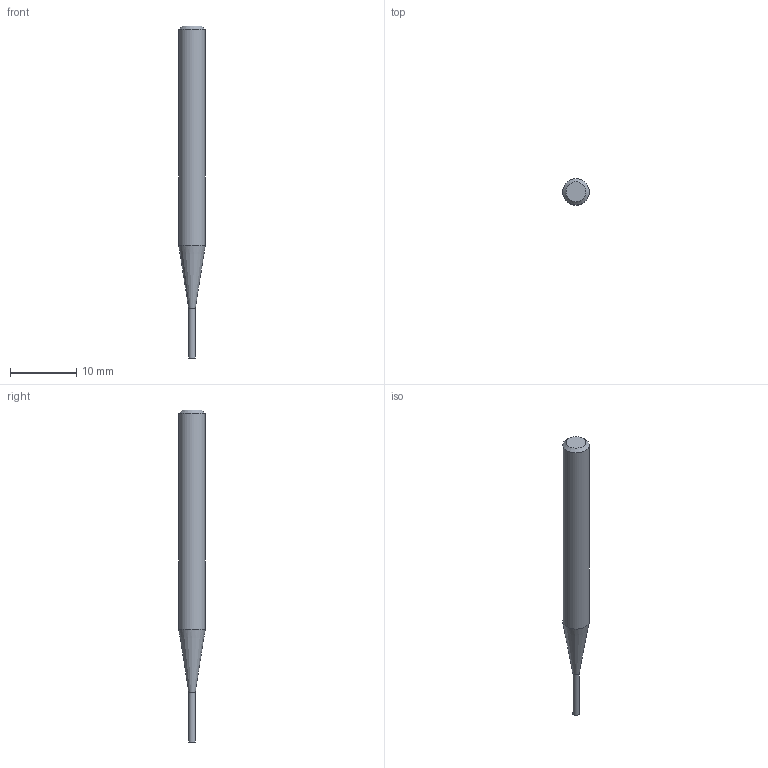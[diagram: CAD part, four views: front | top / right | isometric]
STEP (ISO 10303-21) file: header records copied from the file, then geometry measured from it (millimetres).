
FILE_DESCRIPTION((''),'2;1');
FILE_NAME('C:\Users\nsx150\Desktop\RSE230_20210427\01-00644-01003 RSE230 D1X7_5.step','2021-05-07T14:53:12',(''),(''),'STEP Write','Mastercam 2021 ... CNC Software, Inc.','');
FILE_SCHEMA(('AUTOMOTIVE_DESIGN'));
Length unit declared in the file: millimetre
Products named in the file (1): None
Bounding box: 4 x 4 x 50 mm (x, y, z)
Volume: 471.6 mm3; surface area: 524.8 mm2
Topology: 2 solids, 2 shells, 8 faces, 10 edges, 6 vertices
Faces by surface type: plane 4, cylinder 2, cone 2
Full cylindrical faces by diameter (mm): 1 x1, 4 x1
Entity records: 190 total; most frequent: DIRECTION 32, CARTESIAN_POINT 22, AXIS2_PLACEMENT_3D 16, ORIENTED_EDGE 12, EDGE_LOOP 12, STYLED_ITEM 11, ADVANCED_FACE 8, VERTEX_POINT 6
